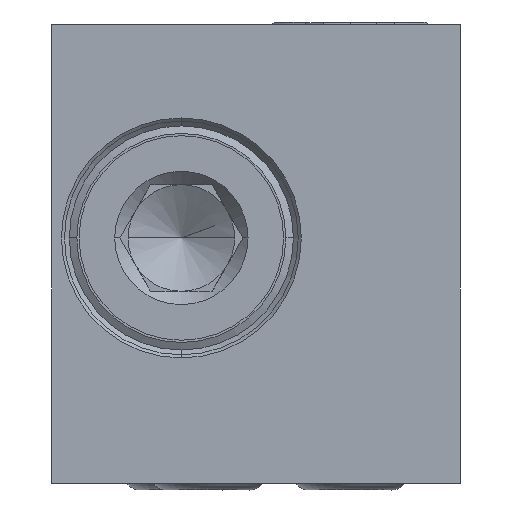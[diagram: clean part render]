
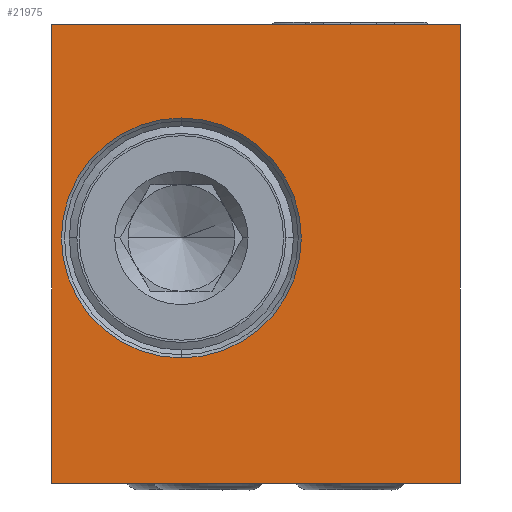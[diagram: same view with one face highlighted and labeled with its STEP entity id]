
A CAD part, left-side view. The second image highlights one B-rep face of the part: STEP entity #21975.
In plain terms, the highlighted planar face has unit normal (-1, 0, 0).
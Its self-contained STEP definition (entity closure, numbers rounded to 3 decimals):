
#4049=DIRECTION('',(0.,0.,1.));
#4050=VECTOR('',#4049,25.8);
#4051=CARTESIAN_POINT('',(-38.,11.5,-12.9));
#4052=LINE('',#4051,#4050);
#4053=DIRECTION('',(0.,-1.,0.));
#4054=VECTOR('',#4053,23.);
#4055=CARTESIAN_POINT('',(-38.,11.5,12.9));
#4056=LINE('',#4055,#4054);
#4057=DIRECTION('',(0.,0.,-1.));
#4058=VECTOR('',#4057,25.8);
#4059=CARTESIAN_POINT('',(-38.,-11.5,12.9));
#4060=LINE('',#4059,#4058);
#4061=DIRECTION('',(0.,1.,0.));
#4062=VECTOR('',#4061,23.);
#4063=CARTESIAN_POINT('',(-38.,-11.5,-12.9));
#4064=LINE('',#4063,#4062);
#4065=CARTESIAN_POINT('',(-38.,4.2,0.9));
#4066=DIRECTION('',(-1.,0.,0.));
#4067=DIRECTION('',(0.,0.,-1.));
#4068=AXIS2_PLACEMENT_3D('',#4065,#4066,#4067);
#4070=CARTESIAN_POINT('',(-38.,4.2,0.9));
#4071=DIRECTION('',(-1.,0.,0.));
#4072=DIRECTION('',(0.,0.,1.));
#4073=AXIS2_PLACEMENT_3D('',#4070,#4071,#4072);
#15055=CARTESIAN_POINT('',(-38.,11.5,12.9));
#15056=VERTEX_POINT('',#15055);
#15057=CARTESIAN_POINT('',(-38.,11.5,-12.9));
#15058=VERTEX_POINT('',#15057);
#15059=CARTESIAN_POINT('',(-38.,-11.5,12.9));
#15060=VERTEX_POINT('',#15059);
#15081=CARTESIAN_POINT('',(-38.,-11.5,-12.9));
#15082=VERTEX_POINT('',#15081);
#15127=CARTESIAN_POINT('',(-38.,4.2,-5.85));
#15128=CARTESIAN_POINT('',(-38.,4.2,7.65));
#15129=VERTEX_POINT('',#15127);
#15130=VERTEX_POINT('',#15128);
#21956=CARTESIAN_POINT('',(-38.,0.,0.));
#21957=DIRECTION('',(-1.,0.,0.));
#21958=DIRECTION('',(0.,-1.,0.));
#21959=AXIS2_PLACEMENT_3D('',#21956,#21957,#21958);
#21960=PLANE('',#21959);
#21961=ORIENTED_EDGE('',*,*,#21949,.T.);
#21962=ORIENTED_EDGE('',*,*,#19729,.T.);
#21964=ORIENTED_EDGE('',*,*,#21963,.T.);
#21966=ORIENTED_EDGE('',*,*,#21965,.T.);
#21967=EDGE_LOOP('',(#21961,#21962,#21964,#21966));
#21968=FACE_OUTER_BOUND('',#21967,.F.);
#21970=ORIENTED_EDGE('',*,*,#21969,.T.);
#21972=ORIENTED_EDGE('',*,*,#21971,.T.);
#21973=EDGE_LOOP('',(#21970,#21972));
#21974=FACE_BOUND('',#21973,.F.);
#21975=ADVANCED_FACE('',(#21968,#21974),#21960,.T.);
#4069=CIRCLE('',#4068,6.75);
#4074=CIRCLE('',#4073,6.75);
#19729=EDGE_CURVE('',#15056,#15060,#4056,.T.);
#21949=EDGE_CURVE('',#15058,#15056,#4052,.T.);
#21963=EDGE_CURVE('',#15060,#15082,#4060,.T.);
#21965=EDGE_CURVE('',#15082,#15058,#4064,.T.);
#21969=EDGE_CURVE('',#15129,#15130,#4069,.T.);
#21971=EDGE_CURVE('',#15130,#15129,#4074,.T.);
